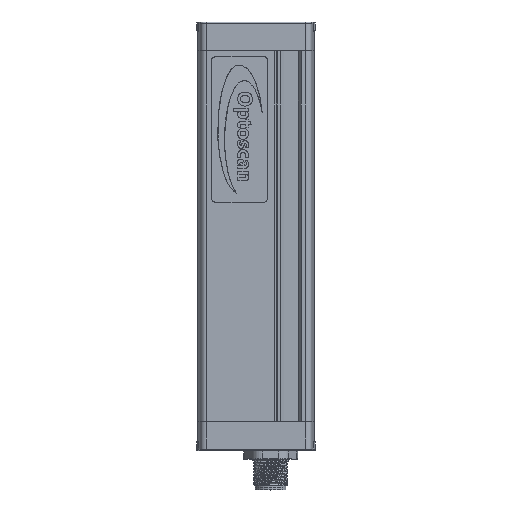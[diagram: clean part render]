
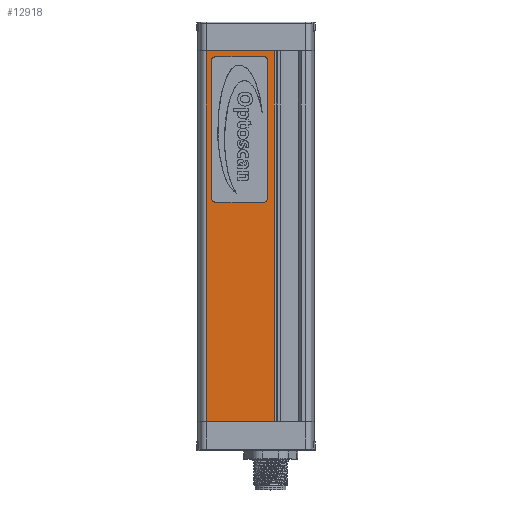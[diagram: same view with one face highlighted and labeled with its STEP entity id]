
A CAD part, top view. The second image highlights one B-rep face of the part: STEP entity #12918.
In plain terms, the highlighted planar face has unit normal (0, 0, 1).
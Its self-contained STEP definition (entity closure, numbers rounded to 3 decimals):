
#148=FACE_BOUND('',#2029,.T.);
#450=CIRCLE('',#13751,1.49);
#451=CIRCLE('',#13752,1.49);
#452=CIRCLE('',#13753,1.49);
#453=CIRCLE('',#13754,1.49);
#975=PLANE('',#13750);
#1324=FACE_OUTER_BOUND('',#2028,.T.);
#2028=EDGE_LOOP('',(#8716,#8717,#8718,#8719));
#2029=EDGE_LOOP('',(#8720,#8721,#8722,#8723,#8724,#8725,#8726,#8727));
#3097=LINE('',#19392,#4122);
#3109=LINE('',#19426,#4134);
#3123=LINE('',#19463,#4148);
#3124=LINE('',#19464,#4149);
#3125=LINE('',#19469,#4150);
#3126=LINE('',#19473,#4151);
#3127=LINE('',#19477,#4152);
#3128=LINE('',#19480,#4153);
#4122=VECTOR('',#15333,10.);
#4134=VECTOR('',#15357,10.);
#4148=VECTOR('',#15385,10.);
#4149=VECTOR('',#15386,10.);
#4150=VECTOR('',#15389,10.);
#4151=VECTOR('',#15392,10.);
#4152=VECTOR('',#15395,10.);
#4153=VECTOR('',#15398,10.);
#5259=VERTEX_POINT('',#19389);
#5260=VERTEX_POINT('',#19391);
#5275=VERTEX_POINT('',#19423);
#5276=VERTEX_POINT('',#19425);
#5293=VERTEX_POINT('',#19465);
#5294=VERTEX_POINT('',#19466);
#5295=VERTEX_POINT('',#19468);
#5296=VERTEX_POINT('',#19470);
#5297=VERTEX_POINT('',#19472);
#5298=VERTEX_POINT('',#19474);
#5299=VERTEX_POINT('',#19476);
#5300=VERTEX_POINT('',#19478);
#6573=EDGE_CURVE('',#5259,#5260,#3097,.T.);
#6589=EDGE_CURVE('',#5276,#5275,#3109,.T.);
#6607=EDGE_CURVE('',#5275,#5260,#3123,.T.);
#6608=EDGE_CURVE('',#5276,#5259,#3124,.T.);
#6609=EDGE_CURVE('',#5293,#5294,#450,.T.);
#6610=EDGE_CURVE('',#5295,#5293,#3125,.T.);
#6611=EDGE_CURVE('',#5296,#5295,#451,.T.);
#6612=EDGE_CURVE('',#5297,#5296,#3126,.T.);
#6613=EDGE_CURVE('',#5298,#5297,#452,.T.);
#6614=EDGE_CURVE('',#5299,#5298,#3127,.T.);
#6615=EDGE_CURVE('',#5300,#5299,#453,.T.);
#6616=EDGE_CURVE('',#5294,#5300,#3128,.T.);
#8716=ORIENTED_EDGE('',*,*,#6589,.T.);
#8717=ORIENTED_EDGE('',*,*,#6607,.T.);
#8718=ORIENTED_EDGE('',*,*,#6573,.F.);
#8719=ORIENTED_EDGE('',*,*,#6608,.F.);
#8720=ORIENTED_EDGE('',*,*,#6609,.F.);
#8721=ORIENTED_EDGE('',*,*,#6610,.F.);
#8722=ORIENTED_EDGE('',*,*,#6611,.F.);
#8723=ORIENTED_EDGE('',*,*,#6612,.F.);
#8724=ORIENTED_EDGE('',*,*,#6613,.F.);
#8725=ORIENTED_EDGE('',*,*,#6614,.F.);
#8726=ORIENTED_EDGE('',*,*,#6615,.F.);
#8727=ORIENTED_EDGE('',*,*,#6616,.F.);
#12918=ADVANCED_FACE('',(#1324,#148),#975,.T.);
#13750=AXIS2_PLACEMENT_3D('',#19462,#15383,#15384);
#13751=AXIS2_PLACEMENT_3D('',#19467,#15387,#15388);
#13752=AXIS2_PLACEMENT_3D('',#19471,#15390,#15391);
#13753=AXIS2_PLACEMENT_3D('',#19475,#15393,#15394);
#13754=AXIS2_PLACEMENT_3D('',#19479,#15396,#15397);
#15333=DIRECTION('',(1.,0.,0.));
#15357=DIRECTION('',(1.,0.,0.));
#15383=DIRECTION('center_axis',(0.,0.,
1.));
#15384=DIRECTION('ref_axis',(1.,0.,0.));
#15385=DIRECTION('',(0.,1.,0.));
#15386=DIRECTION('',(0.,1.,0.));
#15387=DIRECTION('center_axis',(0.,0.,
1.));
#15388=DIRECTION('ref_axis',(0.707,0.707,0.));
#15389=DIRECTION('',(0.,1.,0.));
#15390=DIRECTION('center_axis',(0.,0.,
1.));
#15391=DIRECTION('ref_axis',(0.707,-0.707,0.));
#15392=DIRECTION('',(1.,0.,0.));
#15393=DIRECTION('center_axis',(0.,0.,
1.));
#15394=DIRECTION('ref_axis',(-0.707,-0.707,0.));
#15395=DIRECTION('',(0.,-1.,0.));
#15396=DIRECTION('center_axis',(0.,0.,
1.));
#15397=DIRECTION('ref_axis',(-0.707,0.707,0.));
#15398=DIRECTION('',(-1.,0.,0.));
#19389=CARTESIAN_POINT('',(-12.565,127.,1.277));
#19391=CARTESIAN_POINT('',(10.736,127.,1.277));
#19392=CARTESIAN_POINT('',(-12.565,127.,1.277));
#19423=CARTESIAN_POINT('',(10.736,0.,1.277));
#19425=CARTESIAN_POINT('',(-12.565,0.,1.277));
#19426=CARTESIAN_POINT('',(-12.565,0.,1.277));
#19462=CARTESIAN_POINT('Origin',(-12.565,0.,
1.277));
#19463=CARTESIAN_POINT('',(10.736,0.,1.277));
#19464=CARTESIAN_POINT('',(-12.565,0.,1.277));
#19465=CARTESIAN_POINT('',(8.576,123.5,1.277));
#19466=CARTESIAN_POINT('',(7.086,124.99,1.277));
#19467=CARTESIAN_POINT('Origin',(7.086,123.5,1.277));
#19468=CARTESIAN_POINT('',(8.576,76.7,1.277));
#19469=CARTESIAN_POINT('',(8.576,88.4,1.277));
#19470=CARTESIAN_POINT('',(7.086,75.21,1.277));
#19471=CARTESIAN_POINT('Origin',(7.086,76.7,1.277));
#19472=CARTESIAN_POINT('',(-9.314,75.21,1.277));
#19473=CARTESIAN_POINT('',(-5.214,75.21,1.277));
#19474=CARTESIAN_POINT('',(-10.804,76.7,1.277));
#19475=CARTESIAN_POINT('Origin',(-9.314,76.7,1.277));
#19476=CARTESIAN_POINT('',(-10.804,123.5,1.277));
#19477=CARTESIAN_POINT('',(-10.804,111.8,1.277));
#19478=CARTESIAN_POINT('',(-9.314,124.99,1.277));
#19479=CARTESIAN_POINT('Origin',(-9.314,123.5,1.277));
#19480=CARTESIAN_POINT('',(2.986,124.99,1.277));
